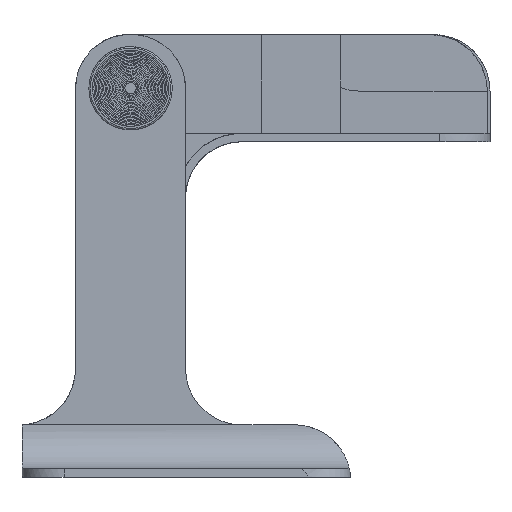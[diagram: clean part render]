
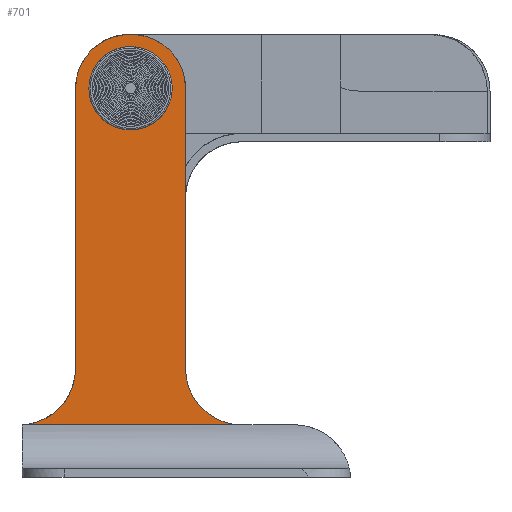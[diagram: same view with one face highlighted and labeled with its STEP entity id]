
A CAD part, front view. The second image highlights one B-rep face of the part: STEP entity #701.
In plain terms, the highlighted planar face has unit normal (0, -1, 0).
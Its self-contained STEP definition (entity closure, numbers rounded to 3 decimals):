
#225=FACE_BOUND('',#1765,.T.);
#701=ADVANCED_FACE('',(#1186,#225),#8264,.T.);
#1186=FACE_OUTER_BOUND('',#1764,.T.);
#1764=EDGE_LOOP('',(#4294,#4295,#4296,#4297,#4298,#4299,#4300,#4301));
#1765=EDGE_LOOP('',(#4302,#4303));
#4294=ORIENTED_EDGE('',*,*,#5607,.F.);
#4295=ORIENTED_EDGE('',*,*,#5609,.T.);
#4296=ORIENTED_EDGE('',*,*,#5618,.T.);
#4297=ORIENTED_EDGE('',*,*,#5521,.T.);
#4298=ORIENTED_EDGE('',*,*,#5533,.F.);
#4299=ORIENTED_EDGE('',*,*,#5610,.T.);
#4300=ORIENTED_EDGE('',*,*,#5612,.T.);
#4301=ORIENTED_EDGE('',*,*,#5611,.T.);
#4302=ORIENTED_EDGE('',*,*,#5631,.T.);
#4303=ORIENTED_EDGE('',*,*,#5630,.T.);
#5521=EDGE_CURVE('',#7738,#7763,#6879,.T.);
#5533=EDGE_CURVE('',#7767,#7763,#6384,.T.);
#5607=EDGE_CURVE('',#7818,#7819,#6419,.T.);
#5609=EDGE_CURVE('',#7818,#7820,#6923,.T.);
#5610=EDGE_CURVE('',#7767,#7821,#6924,.T.);
#5611=EDGE_CURVE('',#7822,#7819,#6925,.T.);
#5612=EDGE_CURVE('',#7821,#7822,#6421,.T.);
#5618=EDGE_CURVE('',#7820,#7738,#6427,.T.);
#5630=EDGE_CURVE('',#7823,#7824,#6437,.T.);
#5631=EDGE_CURVE('',#7824,#7823,#6438,.T.);
#6384=(
BOUNDED_CURVE()
B_SPLINE_CURVE(2,(#15497,#15498,#15499),.UNSPECIFIED.,.F.,.F.)
B_SPLINE_CURVE_WITH_KNOTS((3,3),(-4.712,-3.142),
 .UNSPECIFIED.)
CURVE()
GEOMETRIC_REPRESENTATION_ITEM()
RATIONAL_B_SPLINE_CURVE((1.,0.707,1.))
REPRESENTATION_ITEM('')
);
#6419=(
BOUNDED_CURVE()
B_SPLINE_CURVE(2,(#15670,#15671,#15672),.UNSPECIFIED.,.F.,.F.)
B_SPLINE_CURVE_WITH_KNOTS((3,3),(-4.712,-3.142),
 .UNSPECIFIED.)
CURVE()
GEOMETRIC_REPRESENTATION_ITEM()
RATIONAL_B_SPLINE_CURVE((1.,0.707,1.))
REPRESENTATION_ITEM('')
);
#6421=(
BOUNDED_CURVE()
B_SPLINE_CURVE(2,(#15681,#15682,#15683),.UNSPECIFIED.,.F.,.F.)
B_SPLINE_CURVE_WITH_KNOTS((3,3),(-4.712,-3.142),
 .UNSPECIFIED.)
CURVE()
GEOMETRIC_REPRESENTATION_ITEM()
RATIONAL_B_SPLINE_CURVE((1.,0.707,1.))
REPRESENTATION_ITEM('')
);
#6427=(
BOUNDED_CURVE()
B_SPLINE_CURVE(2,(#15696,#15697,#15698),.UNSPECIFIED.,.F.,.F.)
B_SPLINE_CURVE_WITH_KNOTS((3,3),(1.571,3.092),
 .UNSPECIFIED.)
CURVE()
GEOMETRIC_REPRESENTATION_ITEM()
RATIONAL_B_SPLINE_CURVE((1.,0.725,1.))
REPRESENTATION_ITEM('')
);
#6437=(
BOUNDED_CURVE()
B_SPLINE_CURVE(2,(#15730,#15731,#15732,#15733,#15734),.UNSPECIFIED.,.F.,
 .F.)
B_SPLINE_CURVE_WITH_KNOTS((3,2,3),(0.,1.571,3.142),
 .UNSPECIFIED.)
CURVE()
GEOMETRIC_REPRESENTATION_ITEM()
RATIONAL_B_SPLINE_CURVE((1.,0.707,1.,0.707,1.))
REPRESENTATION_ITEM('')
);
#6438=(
BOUNDED_CURVE()
B_SPLINE_CURVE(2,(#15735,#15736,#15737,#15738,#15739),.UNSPECIFIED.,.F.,
 .F.)
B_SPLINE_CURVE_WITH_KNOTS((3,2,3),(3.142,4.712,6.283),
 .UNSPECIFIED.)
CURVE()
GEOMETRIC_REPRESENTATION_ITEM()
RATIONAL_B_SPLINE_CURVE((1.,0.707,1.,0.707,1.))
REPRESENTATION_ITEM('')
);
#6879=B_SPLINE_CURVE_WITH_KNOTS('',1,(#15428,#15429),.UNSPECIFIED.,.F.,
 .F.,(2,2),(0.,78.),.UNSPECIFIED.);
#6923=B_SPLINE_CURVE_WITH_KNOTS('',1,(#15675,#15676),.UNSPECIFIED.,.F.,
 .F.,(2,2),(0.,99.402),.UNSPECIFIED.);
#6924=B_SPLINE_CURVE_WITH_KNOTS('',1,(#15677,#15678),.UNSPECIFIED.,.F.,
 .F.,(2,2),(0.,99.377),.UNSPECIFIED.);
#6925=B_SPLINE_CURVE_WITH_KNOTS('',1,(#15679,#15680),.UNSPECIFIED.,.F.,
 .F.,(2,2),(0.,1.),.UNSPECIFIED.);
#7738=VERTEX_POINT('',#14586);
#7763=VERTEX_POINT('',#14611);
#7767=VERTEX_POINT('',#14615);
#7818=VERTEX_POINT('',#14666);
#7819=VERTEX_POINT('',#14667);
#7820=VERTEX_POINT('',#14668);
#7821=VERTEX_POINT('',#14669);
#7822=VERTEX_POINT('',#14670);
#7823=VERTEX_POINT('',#14671);
#7824=VERTEX_POINT('',#14672);
#8264=PLANE('',#8789);
#8789=AXIS2_PLACEMENT_3D('',#14524,#9234,$);
#9234=DIRECTION('',(0.,-1.,0.));
#14524=CARTESIAN_POINT('',(-7.812,-19.,170.85));
#14586=CARTESIAN_POINT('',(0.,-19.,18.623));
#14611=CARTESIAN_POINT('',(78.,-19.,18.623));
#14615=CARTESIAN_POINT('',(58.,-19.,38.623));
#14666=CARTESIAN_POINT('',(19.,-19.,138.));
#14667=CARTESIAN_POINT('',(38.,-19.,157.));
#14668=CARTESIAN_POINT('',(19.,-19.,38.598));
#14669=CARTESIAN_POINT('',(58.,-19.,138.));
#14670=CARTESIAN_POINT('',(39.,-19.,157.));
#14671=CARTESIAN_POINT('',(38.5,-19.,151.));
#14672=CARTESIAN_POINT('',(38.5,-19.,125.));
#15428=CARTESIAN_POINT('',(0.,-19.,18.623));
#15429=CARTESIAN_POINT('',(78.,-19.,18.623));
#15497=CARTESIAN_POINT('',(58.,-19.,38.623));
#15498=CARTESIAN_POINT('',(58.,-19.,18.623));
#15499=CARTESIAN_POINT('',(78.,-19.,18.623));
#15670=CARTESIAN_POINT('',(19.,-19.,138.));
#15671=CARTESIAN_POINT('',(19.,-19.,157.));
#15672=CARTESIAN_POINT('',(38.,-19.,157.));
#15675=CARTESIAN_POINT('',(19.,-19.,138.));
#15676=CARTESIAN_POINT('',(19.,-19.,38.598));
#15677=CARTESIAN_POINT('',(58.,-19.,38.623));
#15678=CARTESIAN_POINT('',(58.,-19.,138.));
#15679=CARTESIAN_POINT('',(39.,-19.,157.));
#15680=CARTESIAN_POINT('',(38.,-19.,157.));
#15681=CARTESIAN_POINT('',(58.,-19.,138.));
#15682=CARTESIAN_POINT('',(58.,-19.,157.));
#15683=CARTESIAN_POINT('',(39.,-19.,157.));
#15696=CARTESIAN_POINT('',(19.,-19.,38.598));
#15697=CARTESIAN_POINT('',(19.,-19.,19.575));
#15698=CARTESIAN_POINT('',(0.,-19.,18.623));
#15730=CARTESIAN_POINT('',(38.5,-19.,151.));
#15731=CARTESIAN_POINT('',(51.5,-19.,151.));
#15732=CARTESIAN_POINT('',(51.5,-19.,138.));
#15733=CARTESIAN_POINT('',(51.5,-19.,125.));
#15734=CARTESIAN_POINT('',(38.5,-19.,125.));
#15735=CARTESIAN_POINT('',(38.5,-19.,125.));
#15736=CARTESIAN_POINT('',(25.5,-19.,125.));
#15737=CARTESIAN_POINT('',(25.5,-19.,138.));
#15738=CARTESIAN_POINT('',(25.5,-19.,151.));
#15739=CARTESIAN_POINT('',(38.5,-19.,151.));
